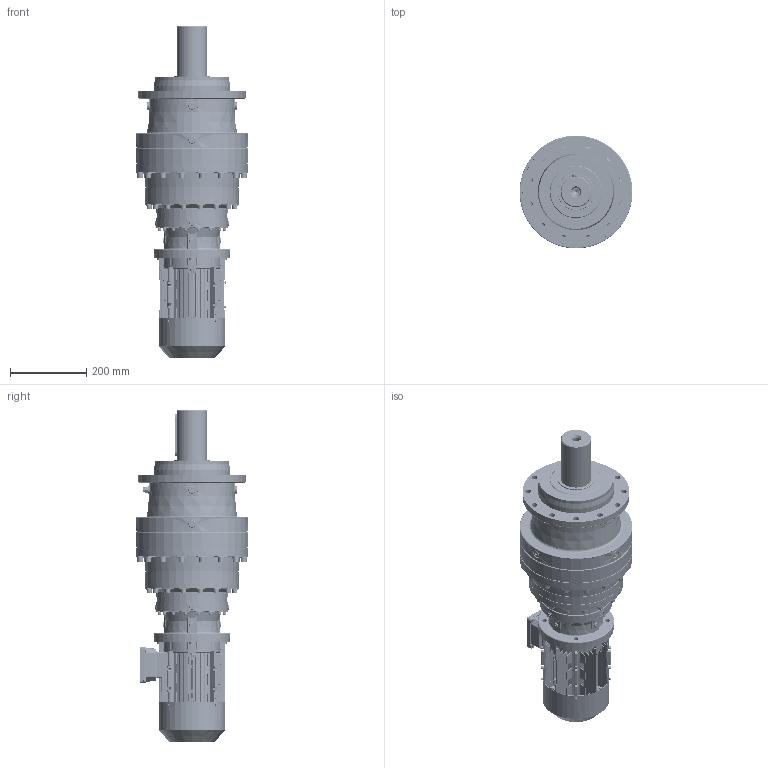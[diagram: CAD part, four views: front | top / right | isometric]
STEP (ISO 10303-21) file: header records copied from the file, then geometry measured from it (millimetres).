
FILE_DESCRIPTION (( 'STEP AP203' ), '1' );
FILE_NAME ('PVL_1903L-MX90S-4.STEP', '2019-05-10T13:23:44', ( '' ), ( '' ), 'SwSTEP 2.0', 'SolidWorks 2012', '' );
FILE_SCHEMA (( 'CONFIG_CONTROL_DESIGN' ));
Products named in the file (33): PVL_1903L-MX90S-4; cross recessed pan head screws gb_GB_CROSS_SCREWS_TYPE1 M4X6-6  H type-N; MX3-90S_B5; hexagon socket head cap screws gb_GB_FASTENER_SCREWS_HSHCS M6X30-N_2; IE3 90S flange_2; IE3 90S  oil seal_2; hexagon socket head cap screws gb_GB_FASTENER_SCREWS_HSHCS M6X25-N_1; hexagon socket head cap screws gb_GB_FASTENER_SCREWS_HSHCS M6X40-N; cross recessed pan head screws gb_GB_CROSS_SCREWS_TYPE1 M5X10-10  H type-N_2; circlips for shaft--type b gb_GB_CONNECTING_PIECE_RINGS_CSB 20_2; IE3 90L cable glandsM16_2; hexagon flange head tapping screws gb_GB_SQUARE_AND_HEXAGON_TYPE137 ST3.5X9.5 F-N_2; cross recessed pan head screws gb_GB_CROSS_SCREWS_TYPE1 M5X20-20  H type-N_2; hexagon head bolts-full thread gb_GB_FASTENER_BOLT_STBAB A M4X16-N_2; IE3 90S connection board_2; IE3 90S terminal box cover_2; hex nuts, style 1-grades ab gb_GB_FASTENER_NUT_SNAB1 M6-N_2; spring lock washers--normal type gb_GB_FASTENER_WASHER_SW 6_2; cross recessed pan head tapping screws gb_GB_CROSS_SCREWS_TYPE128 ST4.2X9.5 H C-N_2; IE3 90S terminal box_2; IE3 90S fan_2; IE3 90S fan cover_2; plain parallel keys_GB_CONNECTING_PIECE_KEYS_CSK 8X40_2; IE3 90S rotor_2; IE3 90S flangeB5; deep groove ball bearings gb_Rolling bearings 6205 GB 276-94_2; IE3 90S casing_2; FL5A_Varsayìlan; PNL_1903L_0_0_A09_B5_ML25A_FL5A_0_0_0_0_0_0_0_0_0_0_0_M1; EK1903L_Varsayìlan; 1190B5_Varsayìlan; P19_Varsayìlan; ML25A_Varsayìlan
Assembly tree (68 placements, depth 3):
  PVL_1903L-MX90S-4
    PNL_1903L_0_0_A09_B5_ML25A_FL5A_0_0_0_0_0_0_0_0_0_0_0_M1
      P19_Varsayìlan
      1190B5_Varsayìlan
      ML25A_Varsayìlan
      EK1903L_Varsayìlan
      FL5A_Varsayìlan
    MX3-90S_B5
      IE3 90S casing_2
      IE3 90S flangeB5
      IE3 90S rotor_2
      deep groove ball bearings gb_Rolling bearings 6205 GB 276-94_2  x2
      IE3 90S fan_2
      IE3 90S fan cover_2
      plain parallel keys_GB_CONNECTING_PIECE_KEYS_CSK 8X40_2
      IE3 90S terminal box_2
      IE3 90S terminal box cover_2
      spring lock washers--normal type gb_GB_FASTENER_WASHER_SW 6_2  x8
      hex nuts, style 1-grades ab gb_GB_FASTENER_NUT_SNAB1 M6-N_2  x7
      cross recessed pan head tapping screws gb_GB_CROSS_SCREWS_TYPE128 ST4.2X9.5 H C-N_2  x4
      hexagon flange head tapping screws gb_GB_SQUARE_AND_HEXAGON_TYPE137 ST3.5X9.5 F-N_2  x4
      IE3 90S connection board_2
      hexagon head bolts-full thread gb_GB_FASTENER_BOLT_STBAB A M4X16-N_2  x6
      cross recessed pan head screws gb_GB_CROSS_SCREWS_TYPE1 M5X20-20  H type-N_2  x2
      cross recessed pan head screws gb_GB_CROSS_SCREWS_TYPE1 M5X10-10  H type-N_2  x4
      IE3 90L cable glandsM16_2  x2
      circlips for shaft--type b gb_GB_CONNECTING_PIECE_RINGS_CSB 20_2
      IE3 90S  oil seal_2
      IE3 90S flange_2
      hexagon socket head cap screws gb_GB_FASTENER_SCREWS_HSHCS M6X40-N  x3
      hexagon socket head cap screws gb_GB_FASTENER_SCREWS_HSHCS M6X25-N_1
      hexagon socket head cap screws gb_GB_FASTENER_SCREWS_HSHCS M6X30-N_2  x4
      cross recessed pan head screws gb_GB_CROSS_SCREWS_TYPE1 M4X6-6  H type-N  x2
Bounding box: 295 x 295 x 868.1 mm (x, y, z)
Volume: 22262152.4 mm3; surface area: 1832397.2 mm2
Topology: 74 solids, 74 shells, 7717 faces, 20139 edges, 12577 vertices
Faces by surface type: plane 3114, cylinder 2300, bspline 1594, cone 584, sphere 81, torus 44
Entity records: 270248 total; most frequent: CARTESIAN_POINT 107934, ORIENTED_EDGE 35432, DIRECTION 29929, EDGE_CURVE 17716, VERTEX_POINT 11190, AXIS2_PLACEMENT_3D 11022, LINE 7885, VECTOR 7885
